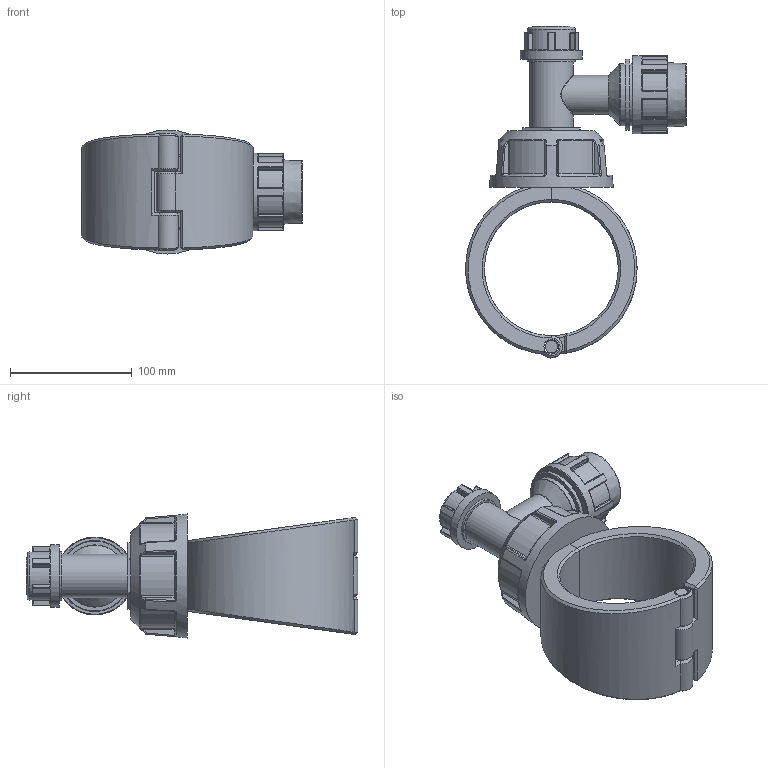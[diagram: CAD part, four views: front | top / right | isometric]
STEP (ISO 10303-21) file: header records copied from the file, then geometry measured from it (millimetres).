
FILE_DESCRIPTION(/* description */ ('Plassadle Tapper 110x32'),/* implementation_level */ '2;1');
FILE_NAME(/* name */ 'C:\Users\comp2\Dropbox\99-16-3568-Processing\Mechanical Fittings\16310\stp\163100110032_1631061100320A.stp',/* time_stamp */ '2022-02-03T11:57:48+00:00',/* author */ ('comp2'),/* organization */ (''),/* preprocessor_version */ 'ST-DEVELOPER v17.2',/* originating_system */ 'Autodesk Inventor 2019',/* authorisation */ '');
FILE_SCHEMA (('AUTOMOTIVE_DESIGN { 1 0 10303 214 3 1 1 }'));
Length unit declared in the file: millimetre
Products named in the file (1): 163100110032_1631061100320A
Bounding box: 181.45 x 273 x 102 mm (x, y, z)
Volume: 1020871.6 mm3; surface area: 144816.4 mm2
Topology: 4 solids, 4 shells, 519 faces, 1253 edges, 754 vertices
Faces by surface type: cylinder 184, plane 109, bspline 87, torus 83, sphere 40, cone 16
Full cylindrical faces by diameter (mm): 10.12 x1, 12.12 x3, 30.6 x1, 32 x2, 35.7 x1, 39.7 x2, 51 x1, 51.2 x2, 58.414 x1, 64 x1
Entity records: 18835 total; most frequent: CARTESIAN_POINT 7082, ORIENTED_EDGE 2508, DIRECTION 2426, EDGE_CURVE 1254, AXIS2_PLACEMENT_3D 1028, VERTEX_POINT 755, CIRCLE 563, EDGE_LOOP 537
